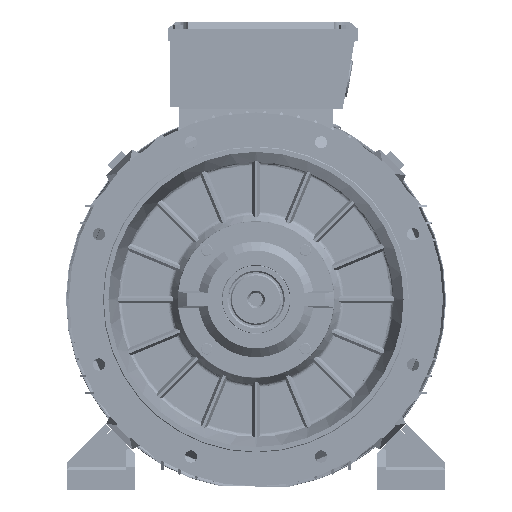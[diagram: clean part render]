
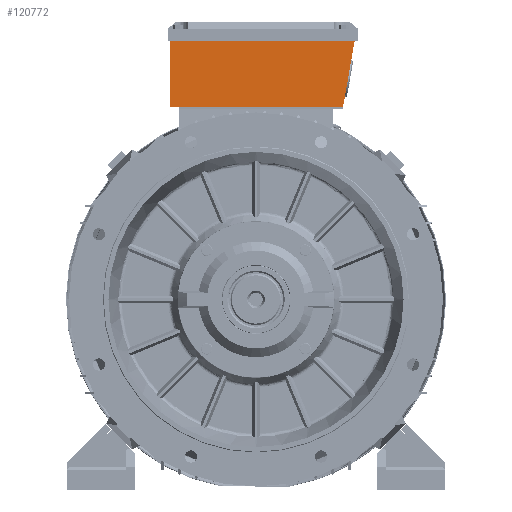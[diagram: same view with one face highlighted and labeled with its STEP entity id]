
A CAD part, left-side view. The second image highlights one B-rep face of the part: STEP entity #120772.
In plain terms, the highlighted planar face has unit normal (-1, 0, 0) as drawn and (0, 0, 1) by its records, which use the part's own axes.
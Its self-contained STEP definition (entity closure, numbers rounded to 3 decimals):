
#85893 = CARTESIAN_POINT ( 'NONE',  ( 13.5, 0., 118.5 ) ) ;
#86433 = CARTESIAN_POINT ( 'NONE',  ( 271.033, 100., 118.5 ) ) ;
#86602 = CARTESIAN_POINT ( 'NONE',  ( 253.929, 3., 118.5 ) ) ;
#86606 = DIRECTION ( 'NONE',  ( 0.174, 0.985, 0. ) ) ;
#86608 = VECTOR ( 'NONE', #86606, 1000. ) ;
#86612 = CARTESIAN_POINT ( 'NONE',  ( 253.4, 0., 118.5 ) ) ;
#86613 = LINE ( 'NONE', #86612, #86608 ) ;
#86729 = DIRECTION ( 'NONE',  ( 1., 0., 0. ) ) ;
#86732 = DIRECTION ( 'NONE',  ( 0., 0., 1. ) ) ;
#87562 = PLANE ( 'NONE',  #87573 ) ;
#87573 = AXIS2_PLACEMENT_3D ( 'NONE', #85893, #86732, #86729 ) ;
#87576 = FACE_OUTER_BOUND ( 'NONE', #120776, .T. ) ;
#88080 = CARTESIAN_POINT ( 'NONE',  ( 0., 3., 118.5 ) ) ;
#88095 = DIRECTION ( 'NONE',  ( 1., 0., 0. ) ) ;
#88098 = VECTOR ( 'NONE', #88095, 1000. ) ;
#88100 = CARTESIAN_POINT ( 'NONE',  ( 0., 3., 118.5 ) ) ;
#88102 = LINE ( 'NONE', #88100, #88098 ) ;
#88227 = CARTESIAN_POINT ( 'NONE',  ( 0., 100., 118.5 ) ) ;
#88231 = DIRECTION ( 'NONE',  ( -1., 0., 0. ) ) ;
#88234 = VECTOR ( 'NONE', #88231, 1000. ) ;
#88236 = CARTESIAN_POINT ( 'NONE',  ( 0., 100., 118.5 ) ) ;
#88238 = LINE ( 'NONE', #88236, #88234 ) ;
#88322 = DIRECTION ( 'NONE',  ( 0., -1., 0. ) ) ;
#88324 = VECTOR ( 'NONE', #88322, 1000. ) ;
#88327 = CARTESIAN_POINT ( 'NONE',  ( 0., 3., 118.5 ) ) ;
#88330 = LINE ( 'NONE', #88327, #88324 ) ;
#120406 = VERTEX_POINT ( 'NONE', #86433 ) ;
#120415 = EDGE_CURVE ( 'NONE', #120419, #120406, #86613, .T. ) ;
#120419 = VERTEX_POINT ( 'NONE', #86602 ) ;
#120772 = ADVANCED_FACE ( 'NONE', ( #87576 ), #87562, .T. ) ;
#120776 = EDGE_LOOP ( 'NONE', ( #120922, #120939, #120946, #121127 ) ) ;
#120922 = ORIENTED_EDGE ( 'NONE', *, *, #120929, .T. ) ;
#120929 = EDGE_CURVE ( 'NONE', #120935, #120419, #88102, .T. ) ;
#120935 = VERTEX_POINT ( 'NONE', #88080 ) ;
#120939 = ORIENTED_EDGE ( 'NONE', *, *, #120415, .T. ) ;
#120946 = ORIENTED_EDGE ( 'NONE', *, *, #120951, .T. ) ;
#120951 = EDGE_CURVE ( 'NONE', #120406, #120952, #88238, .T. ) ;
#120952 = VERTEX_POINT ( 'NONE', #88227 ) ;
#120988 = EDGE_CURVE ( 'NONE', #120952, #120935, #88330, .T. ) ;
#121127 = ORIENTED_EDGE ( 'NONE', *, *, #120988, .T. ) ;
